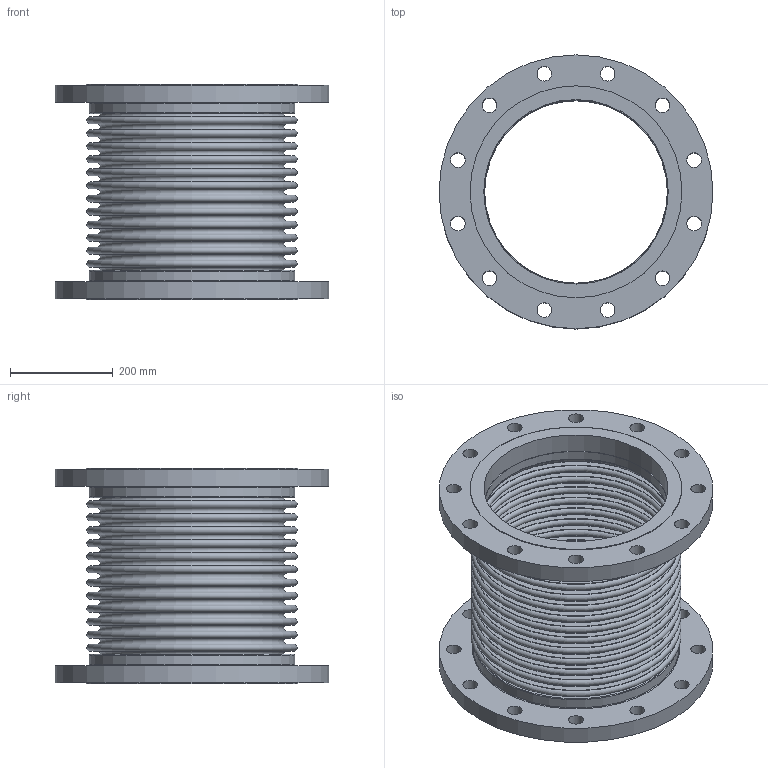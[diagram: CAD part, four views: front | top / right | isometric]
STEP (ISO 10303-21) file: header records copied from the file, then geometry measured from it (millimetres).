
FILE_DESCRIPTION(/* description */ ('EXPANSION JOINT,SINGLE, FLANGED ENDS,14 INCH','CAx-IF Rec.Pracs.---Representation and Presentation of Product Manufacturing Information (PMI)---4.0---2014-10-13'),/* implementation_level */ '2;1');
FILE_NAME(/* name */ 'US-14-12-85L-FLANGED ENDS.stp',/* time_stamp */ '2026-07-31T17:31:11-05:00',/* author */ ('Guadalupe'),/* organization */ (''),/* preprocessor_version */ 'ST-DEVELOPER v20.1',/* originating_system */ 'Autodesk Inventor 2026',/* authorisation */ '');
FILE_SCHEMA (('AP242_MANAGED_MODEL_BASED_3D_ENGINEERING_MIM_LF { 1 0 10303 442 2 1 4 }'));
Length unit declared in the file: inch
Products named in the file (3): 14-85L; 14-85L-02; 14-85L-01
Assembly tree (3 placements, depth 2):
  14-85L
    14-85L-02  x2
    14-85L-01
Bounding box: 533.4 x 533.4 x 419.1 mm (x, y, z)
Volume: 9723594.5 mm3; surface area: 2840769.7 mm2
Topology: 5 solids, 5 shells, 152 faces, 270 edges, 180 vertices
Faces by surface type: plane 62, torus 54, cylinder 36
Full cylindrical faces by diameter (mm): 28.575 x24, 355.6 x2, 357.429 x2, 359.156 x2, 400.05 x2, 412.75 x2, 533.4 x2
Entity records: 3450 total; most frequent: DIRECTION 710, CARTESIAN_POINT 513, ORIENTED_EDGE 432, AXIS2_PLACEMENT_3D 345, EDGE_CURVE 216, EDGE_LOOP 212, CIRCLE 196, VERTEX_POINT 144
